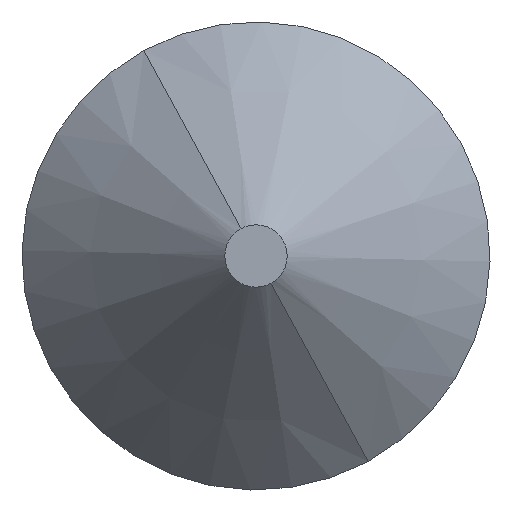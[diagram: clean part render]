
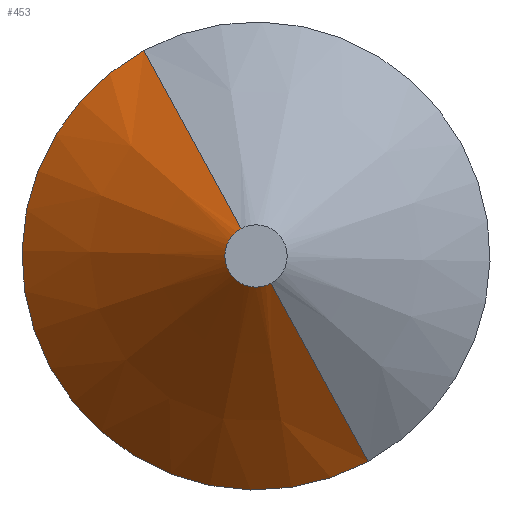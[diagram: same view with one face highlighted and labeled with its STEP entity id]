
A CAD part, front view. The second image highlights one B-rep face of the part: STEP entity #453.
In plain terms, the highlighted conical face has half-angle 45 degrees and reference radius 0.2 mm.
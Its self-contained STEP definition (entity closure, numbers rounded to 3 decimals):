
#389=CARTESIAN_POINT('Vertex',(0.719,1.3,-1.316)) ;
#392=CARTESIAN_POINT('Axis2P3D Location',(0.,1.3,0.)) ;
#396=CARTESIAN_POINT('Vertex',(-0.719,1.3,1.316)) ;
#423=CARTESIAN_POINT('Axis2P3D Location',(0.,0.,0.)) ;
#428=CARTESIAN_POINT('Line Origine',(1695025.295,3535533.806,-3102722.991)) ;
#432=CARTESIAN_POINT('Vertex',(0.096,0.,-0.176)) ;
#435=CARTESIAN_POINT('Axis2P3D Location',(0.,0.,0.)) ;
#439=CARTESIAN_POINT('Vertex',(-0.096,0.,0.176)) ;
#442=CARTESIAN_POINT('Line Origine',(-1695025.295,3535533.806,3102722.991)) ;
#430=VECTOR('Line Direction',#429,1.) ;
#444=VECTOR('Line Direction',#443,1.) ;
#393=DIRECTION('Axis2P3D Direction',(0.,-1.,0.)) ;
#424=DIRECTION('Axis2P3D Direction',(-0.,1.,-0.)) ;
#425=DIRECTION('Axis2P3D XDirection',(-0.479,0.,0.878)) ;
#429=DIRECTION('Vector Direction',(0.339,0.707,-0.621)) ;
#436=DIRECTION('Axis2P3D Direction',(-0.,1.,0.)) ;
#443=DIRECTION('Vector Direction',(-0.339,0.707,0.621)) ;
#394=AXIS2_PLACEMENT_3D('Circle Axis2P3D',#392,#393,$) ;
#426=AXIS2_PLACEMENT_3D('Cone Axis2P3D',#423,#424,#425) ;
#437=AXIS2_PLACEMENT_3D('Circle Axis2P3D',#435,#436,$) ;
#431=LINE('Line',#428,#430) ;
#445=LINE('Line',#442,#444) ;
#395=CIRCLE('generated circle',#394,1.5) ;
#438=CIRCLE('generated circle',#437,0.2) ;
#427=CONICAL_SURFACE('Cone',#426,0.2,0.785) ;
#398=EDGE_CURVE('',#397,#390,#395,.T.) ;
#434=EDGE_CURVE('',#390,#433,#431,.F.) ;
#441=EDGE_CURVE('',#440,#433,#438,.F.) ;
#446=EDGE_CURVE('',#397,#440,#445,.F.) ;
#448=ORIENTED_EDGE('',*,*,#434,.T.) ;
#449=ORIENTED_EDGE('',*,*,#441,.F.) ;
#450=ORIENTED_EDGE('',*,*,#446,.F.) ;
#451=ORIENTED_EDGE('',*,*,#398,.T.) ;
#447=EDGE_LOOP('',(#448,#449,#450,#451)) ;
#390=VERTEX_POINT('',#389) ;
#397=VERTEX_POINT('',#396) ;
#433=VERTEX_POINT('',#432) ;
#440=VERTEX_POINT('',#439) ;
#453=ADVANCED_FACE('Body.3',(#452),#427,.T.) ;
#452=FACE_OUTER_BOUND('',#447,.T.) ;
